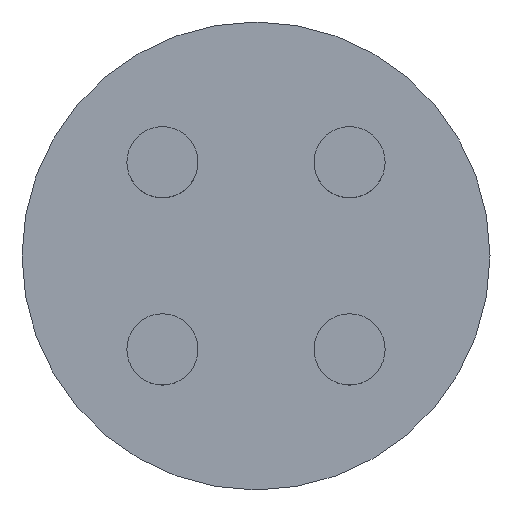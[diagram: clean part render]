
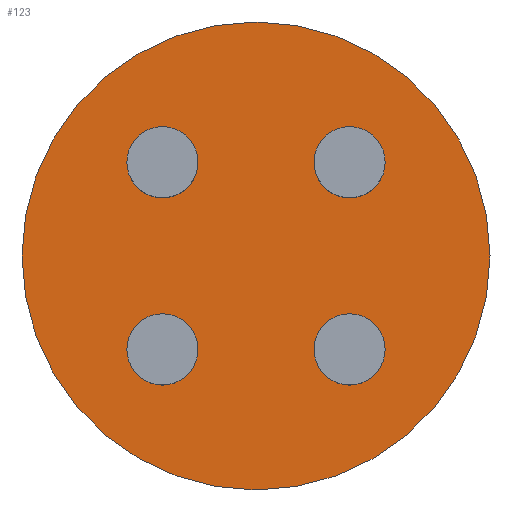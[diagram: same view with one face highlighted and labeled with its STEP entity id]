
A CAD part, top view. The second image highlights one B-rep face of the part: STEP entity #123.
In plain terms, the highlighted planar face has unit normal (0, 0, 1).
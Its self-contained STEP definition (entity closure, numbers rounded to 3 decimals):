
#19=ORIENTED_EDGE('',*,*,#41,.F.);
#20=ORIENTED_EDGE('',*,*,#42,.F.);
#21=ORIENTED_EDGE('',*,*,#43,.F.);
#22=ORIENTED_EDGE('',*,*,#44,.F.);
#23=ORIENTED_EDGE('',*,*,#45,.T.);
#41=EDGE_CURVE('',#52,#52,#63,.T.);
#42=EDGE_CURVE('',#53,#53,#64,.T.);
#43=EDGE_CURVE('',#54,#54,#65,.T.);
#44=EDGE_CURVE('',#55,#55,#66,.T.);
#45=EDGE_CURVE('',#56,#56,#67,.F.);
#52=VERTEX_POINT('',#216);
#53=VERTEX_POINT('',#218);
#54=VERTEX_POINT('',#220);
#55=VERTEX_POINT('',#222);
#56=VERTEX_POINT('',#224);
#63=CIRCLE('',#149,1.9);
#64=CIRCLE('',#150,1.9);
#65=CIRCLE('',#151,1.9);
#66=CIRCLE('',#152,1.9);
#67=CIRCLE('',#153,12.5);
#73=EDGE_LOOP('',(#19));
#74=EDGE_LOOP('',(#20));
#75=EDGE_LOOP('',(#21));
#76=EDGE_LOOP('',(#22));
#77=EDGE_LOOP('',(#23));
#95=FACE_BOUND('',#73,.T.);
#96=FACE_BOUND('',#74,.T.);
#97=FACE_BOUND('',#75,.T.);
#98=FACE_BOUND('',#76,.T.);
#99=FACE_BOUND('',#77,.T.);
#117=PLANE('',#148);
#123=ADVANCED_FACE('',(#95,#96,#97,#98,#99),#117,.F.);
#148=AXIS2_PLACEMENT_3D('',#214,#171,#172);
#149=AXIS2_PLACEMENT_3D('',#215,#173,#174);
#150=AXIS2_PLACEMENT_3D('',#217,#175,#176);
#151=AXIS2_PLACEMENT_3D('',#219,#177,#178);
#152=AXIS2_PLACEMENT_3D('',#221,#179,#180);
#153=AXIS2_PLACEMENT_3D('',#223,#181,#182);
#171=DIRECTION('',(0.,0.,-1.));
#172=DIRECTION('',(-1.,0.,0.));
#173=DIRECTION('',(0.,0.,1.));
#174=DIRECTION('',(1.,0.,0.));
#175=DIRECTION('',(0.,0.,1.));
#176=DIRECTION('',(1.,0.,0.));
#177=DIRECTION('',(0.,0.,1.));
#178=DIRECTION('',(1.,0.,0.));
#179=DIRECTION('',(0.,0.,1.));
#180=DIRECTION('',(1.,0.,0.));
#181=DIRECTION('',(0.,0.,-1.));
#182=DIRECTION('',(-1.,0.,0.));
#214=CARTESIAN_POINT('',(56.25,45.,44.25));
#215=CARTESIAN_POINT('',(51.25,85.,44.25));
#216=CARTESIAN_POINT('',(53.15,85.,44.25));
#217=CARTESIAN_POINT('',(51.25,95.,44.25));
#218=CARTESIAN_POINT('',(53.15,95.,44.25));
#219=CARTESIAN_POINT('',(61.25,95.,44.25));
#220=CARTESIAN_POINT('',(63.15,95.,44.25));
#221=CARTESIAN_POINT('',(61.25,85.,44.25));
#222=CARTESIAN_POINT('',(63.15,85.,44.25));
#223=CARTESIAN_POINT('',(56.25,90.,44.25));
#224=CARTESIAN_POINT('',(43.75,90.,44.25));
